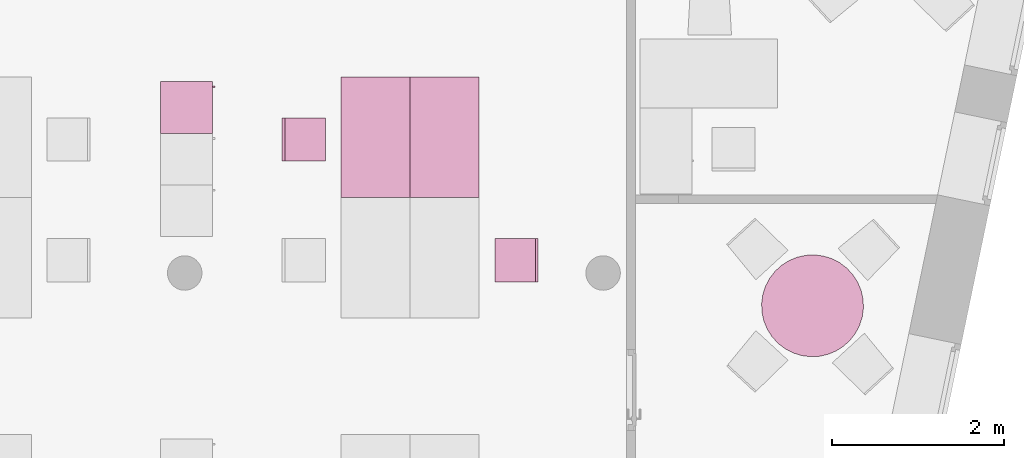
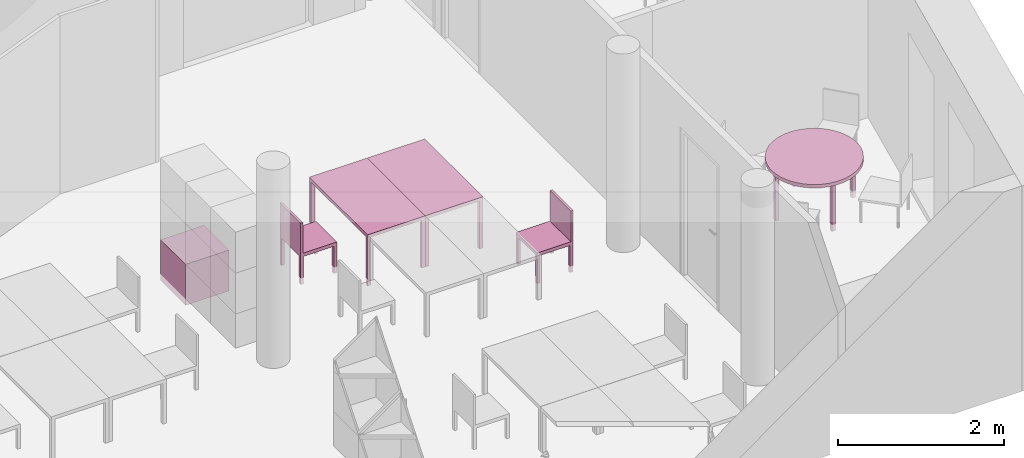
"""IFC4 building model written with IfcOpenShell, lengths in metres."""

import ifcopenshell
import ifcopenshell.guid

model = None  # the IFC model being written
_history = None  # IfcOwnerHistory: only IFC2X3 demands one
_inside = {}  # id of a spatial element -> (the spatial element, [elements in it])
_under = {}  # id of a project, library or spatial element -> (it, [spatial elements below it])
_declared = {}  # id of a project -> (the project, [libraries it declares])
_typed = {}  # id of a type object -> (the type object, [elements of that type])
_made_of = {}  # id of a material, layer set ... -> (it, [elements and type objects made of it])


def new_model(schema):
    """Start an empty IFC model of exactly this schema.

    Asked for "IFC4X3", IfcOpenShell would pick the latest addendum, in which some entities
    have other attributes; the version numbers below select the first issue.
    IFC2X3 requires an IfcOwnerHistory on every rooted entity: one is made here for all.
    """
    global model, _history
    if schema == "IFC4X3":
        model = ifcopenshell.file(schema_version=(4, 3, 0, 0))
    else:
        model = ifcopenshell.file(schema=schema)
    _inside.clear()
    _under.clear()
    _declared.clear()
    _typed.clear()
    _made_of.clear()
    _history = None
    if model.schema == "IFC2X3":
        org = make("IfcOrganization", Name="unknown")
        user = make(
            "IfcPersonAndOrganization",
            ThePerson=make("IfcPerson", FamilyName="unknown"),
            TheOrganization=org,
        )
        app = make(
            "IfcApplication",
            ApplicationDeveloper=org,
            Version="unknown",
            ApplicationFullName="unknown",
            ApplicationIdentifier="unknown",
        )
        _history = make(
            "IfcOwnerHistory",
            OwningUser=user,
            OwningApplication=app,
            ChangeAction="ADDED",
            CreationDate=0,
        )
    return model


def make(cls, **values):
    """One entity of the class cls with the attributes given. An attribute that is None is left unset."""
    return model.create_entity(
        cls, **{name: value for name, value in values.items() if value is not None}
    )


def entity(cls, *values):
    """Any entity or typed value of the class cls, its attributes in the order of the schema. None: left unset."""
    e = model.create_entity(cls)
    for i, value in enumerate(values):
        if value is not None:
            e[i] = value
    return e


def rooted(cls, **values):
    """An entity with a GlobalId (a new one), such as an element, a storey or a relation."""
    return make(cls, GlobalId=ifcopenshell.guid.new(), OwnerHistory=_history, **values)


def si_unit(unit_type, name, prefix=None):
    """IfcSIUnit, for example si_unit("LENGTHUNIT", "METRE", prefix="MILLI")."""
    return make("IfcSIUnit", UnitType=unit_type, Prefix=prefix, Name=name)


def converted_unit(unit_type, name, factor, base, dimensions=None, offset=None):
    """IfcConversionBasedUnit, such as the inch: factor (a typed value) times the base unit."""
    return make(
        "IfcConversionBasedUnit"
        if offset is None
        else "IfcConversionBasedUnitWithOffset",
        ConversionOffset=offset,
        Dimensions=None
        if dimensions is None
        else entity("IfcDimensionalExponents", *dimensions),
        UnitType=unit_type,
        Name=name,
        ConversionFactor=make(
            "IfcMeasureWithUnit", ValueComponent=factor, UnitComponent=base
        ),
    )


def derived_unit(unit_type, elements):
    """IfcDerivedUnit: a product of units, each with its exponent."""
    return make(
        "IfcDerivedUnit",
        Elements=[
            make("IfcDerivedUnitElement", Unit=unit, Exponent=power)
            for unit, power in elements
        ],
        UnitType=unit_type,
    )


def assignment(units):
    """IfcUnitAssignment: the units of a project."""
    return None if units is None else make("IfcUnitAssignment", Units=units)


def point(xyz):
    """IfcCartesianPoint."""
    return None if xyz is None else make("IfcCartesianPoint", Coordinates=xyz)


def direction(xyz):
    """IfcDirection."""
    return None if xyz is None else make("IfcDirection", DirectionRatios=xyz)


def frame(location, z_axis=None, x_axis=None):
    """IfcAxis2Placement3D, a coordinate frame: its origin and axes. An axis left out is left unset."""
    return make(
        "IfcAxis2Placement3D",
        Location=point(location),
        Axis=direction(z_axis),
        RefDirection=direction(x_axis),
    )


def origin():
    """The frame at (0, 0, 0) with its axes left unset."""
    return frame((0.0, 0.0, 0.0))


def place(relative_to, where):
    """IfcLocalPlacement: puts the frame where relative to a parent placement (None: the world)."""
    return make(
        "IfcLocalPlacement", PlacementRelTo=relative_to, RelativePlacement=where
    )


def context(
    kind, dimensions, precision=None, world=None, true_north=None, identifier=None
):
    """IfcGeometricRepresentationContext, for example the 3D "Model" context."""
    return make(
        "IfcGeometricRepresentationContext",
        ContextIdentifier=identifier,
        ContextType=kind,
        CoordinateSpaceDimension=dimensions,
        Precision=precision,
        WorldCoordinateSystem=world,
        TrueNorth=true_north,
    )


def subcontext(parent, identifier, kind, view, scale=None):
    """IfcGeometricRepresentationSubContext, for example "Body" below "Model"."""
    return make(
        "IfcGeometricRepresentationSubContext",
        ContextIdentifier=identifier,
        ContextType=kind,
        ParentContext=parent,
        TargetScale=scale,
        TargetView=view,
    )


def project(units=None, contexts=None):
    """IfcProject with its units and contexts."""
    return rooted(
        "IfcProject",
        Name="project",
        RepresentationContexts=contexts,
        UnitsInContext=assignment(units),
    )


def spatial(cls, under=None, at=None, **own):
    """A site, building, storey or space (cls), placed at a placement, below another one or the project."""
    s = rooted(cls, ObjectPlacement=at, **own)
    if under is not None:
        _under.setdefault(under.id(), (under, []))[1].append(s)
    return s


def faces_of(points, faces, orient=None, outer=None):
    """IfcFace entities. A face is a list of loops; a loop is a list of indices into points, from 0.

    orient and outer hold one flag for each loop. By default every Orientation is true, the
    first loop of a face is its IfcFaceOuterBound and the others are IfcFaceBound.
    """
    made = []
    for i, loops in enumerate(faces):
        bounds = []
        for j, loop in enumerate(loops):
            is_outer = j == 0 if outer is None else outer[i][j]
            bounds.append(
                make(
                    "IfcFaceOuterBound" if is_outer else "IfcFaceBound",
                    Bound=make("IfcPolyLoop", Polygon=[points[k] for k in loop]),
                    Orientation=True if orient is None else orient[i][j],
                )
            )
        made.append(make("IfcFace", Bounds=bounds))
    return made


def faceted_brep(points, faces, orient=None, outer=None, voids=None):
    """IfcFacetedBrep: a solid bounded by flat faces; with voids (closed shells), ...WithVoids."""
    shared = [point(p) for p in points]
    hull = make("IfcClosedShell", CfsFaces=faces_of(shared, faces, orient, outer))
    if voids is None:
        return make("IfcFacetedBrep", Outer=hull)
    return make(
        "IfcFacetedBrepWithVoids",
        Outer=hull,
        Voids=[
            make(cls, CfsFaces=faces_of(shared, fs, o, b)) for cls, fs, o, b in voids
        ],
    )


def shape(context_of_items, identifier, shape_type, items):
    """IfcShapeRepresentation: the items that make up one representation, for example the "Body"."""
    return make(
        "IfcShapeRepresentation",
        ContextOfItems=context_of_items,
        RepresentationIdentifier=identifier,
        RepresentationType=shape_type,
        Items=items,
    )


def made_of(thing, what):
    """Note that an element or type object is made of a material, layer set ...; save() writes the relation."""
    if what is not None:
        _made_of.setdefault(what.id(), (what, []))[1].append(thing)
    return thing


def element(
    cls,
    number,
    at=None,
    inside=None,
    cuts=None,
    type_object=None,
    material=None,
    context=None,
    identifier="Body",
    shape_type=None,
    held_by="IfcProductDefinitionShape",
    body=None,
    shapes=None,
    **own,
):
    """One element of the class cls, such as IfcWall. Its Tag is "e" and its number.

    at: its placement. inside: the storey or other place that contains it. cuts: it is an
    opening in that element (IfcRelVoidsElement). A single representation is given by context,
    identifier, shape_type and body (its items); several are given by shapes. held_by: the class
    of the entity that holds the representations. save() writes the other relations.
    """
    e = rooted(cls, Tag="e%d" % number, ObjectPlacement=at, **own)
    if body is not None:
        shapes = [shape(context, identifier, shape_type, body)]
    if shapes is not None:
        e.Representation = make(held_by, Representations=shapes)
    if inside is not None:
        _inside.setdefault(inside.id(), (inside, []))[1].append(e)
    if cuts is not None:
        rooted(
            "IfcRelVoidsElement", RelatingBuildingElement=cuts, RelatedOpeningElement=e
        )
    if type_object is not None:
        _typed.setdefault(type_object.id(), (type_object, []))[1].append(e)
    return made_of(e, material)


def aggregate(whole, parts):
    """IfcRelAggregates: a whole, such as a stair, and the parts it consists of."""
    return rooted("IfcRelAggregates", RelatingObject=whole, RelatedObjects=parts)


def save(model, path):
    """Write the relations noted so far, then the file.

    IfcRelAggregates (storeys below a building ...), IfcRelContainedInSpatialStructure (elements
    in a storey), IfcRelDefinesByType, IfcRelAssociatesMaterial and IfcRelDeclares: one each for
    every whole, place, type object, material and project.
    """
    for whole, parts in _under.values():
        aggregate(whole, parts)
    for where, things in _inside.values():
        rooted(
            "IfcRelContainedInSpatialStructure",
            RelatedElements=things,
            RelatingStructure=where,
        )
    for kind, things in _typed.values():
        rooted("IfcRelDefinesByType", RelatedObjects=things, RelatingType=kind)
    for what, things in _made_of.values():
        rooted("IfcRelAssociatesMaterial", RelatedObjects=things, RelatingMaterial=what)
    for by, libraries in _declared.values():
        rooted("IfcRelDeclares", RelatingContext=by, RelatedDefinitions=libraries)
    model.write(path)


model = new_model("IFC4")

# Units and contexts
model_context = context("Model", 3, precision=1e-05, world=origin())
body_context = subcontext(model_context, "Body", "Model", "MODEL_VIEW")
ifc_project = project(units=[si_unit("LENGTHUNIT", "METRE"), si_unit("AREAUNIT", "SQUARE_METRE"), si_unit("VOLUMEUNIT", "CUBIC_METRE"), si_unit("MASSUNIT", "GRAM", prefix="KILO"), converted_unit("PLANEANGLEUNIT", "DEGREE", entity("IfcPlaneAngleMeasure", 0.0174532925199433), si_unit("PLANEANGLEUNIT", "RADIAN"), dimensions=[0, 0, 0, 0, 0, 0, 0]), derived_unit("THERMALTRANSMITTANCEUNIT", [(si_unit("POWERUNIT", "WATT"), 1), (si_unit("THERMODYNAMICTEMPERATUREUNIT", "KELVIN"), -1), (si_unit("LENGTHUNIT", "METRE"), -2)]), derived_unit("VOLUMETRICFLOWRATEUNIT", [(si_unit("LENGTHUNIT", "METRE"), 3), (converted_unit("TIMEUNIT", "hour", entity("IfcTimeMeasure", 3600.0), si_unit("TIMEUNIT", "SECOND"), dimensions=[0, 0, 1, 0, 0, 0, 0]), -1), (si_unit("LENGTHUNIT", "METRE"), -1)])], contexts=[model_context])

# Building, storeys
building_placement = place(None, origin())
building = spatial("IfcBuilding", under=ifc_project, at=building_placement, Name="HABITATGE PLURIFAMILIAR", CompositionType="ELEMENT")
storey_1_placement = place(building_placement, frame((0.0, 0.0, 12.27)))
storey_1 = spatial("IfcBuildingStorey", under=building, at=storey_1_placement, Name="PLANTA TERCERA", CompositionType="ELEMENT", Elevation=12.27)
storey_2_placement = place(storey_1_placement, frame((0.0, 0.0, 9.26)))
storey_2 = spatial("IfcBuildingStorey", under=storey_1, at=storey_2_placement, Name="NOU", CompositionType="PARTIAL")

# Furniture
furniture_1_placement = place(storey_2_placement, frame((422.83097440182, 16.8283954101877, -9.3599999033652)))
element("IfcFurniture", 1, at=furniture_1_placement, inside=storey_2, Name="Taula D120_P3", context=body_context, shape_type="Brep", body=[
    faceted_brep([(0.566234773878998, 0.0, 0.7), (0.669181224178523, 0.00472505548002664, 0.7), (0.769743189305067, 0.0272547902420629, 0.7), (0.864865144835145, 0.066904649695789, 0.7), (0.95165685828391, 0.122469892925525, 0.7), (1.02748120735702, 0.192262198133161, 0.7), (1.09003430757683, 0.274160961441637, 0.7), (1.13741551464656, 0.365677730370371, 0.7), (1.16818517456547, 0.46403181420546, 0.7), (1.18140836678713, 0.566234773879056, 0.7), (1.17668331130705, 0.669181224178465, 0.7), (1.15415357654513, 0.769743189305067, 0.7), (1.1145037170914, 0.864865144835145, 0.7), (1.05893847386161, 0.95165685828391, 0.7), (0.98914616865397, 1.02748120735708, 0.7), (0.907247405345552, 1.09003430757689, 0.7), (0.815730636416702, 1.13741551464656, 0.7), (0.717376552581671, 1.16818517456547, 0.7), (0.615173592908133, 1.18140836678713, 0.7), (0.512227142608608, 1.1766833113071, 0.7), (0.411665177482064, 1.15415357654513, 0.7), (0.316543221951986, 1.1145037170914, 0.7), (0.229751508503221, 1.05893847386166, 0.7), (0.15392715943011, 0.989146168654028, 0.7), (0.0913740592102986, 0.907247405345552, 0.7), (0.0439928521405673, 0.81573063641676, 0.7), (0.0132231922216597, 0.717376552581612, 0.7), (0.0, 0.615173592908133, 0.7), (0.00472505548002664, 0.512227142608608, 0.7), (0.0272547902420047, 0.411665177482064, 0.7), (0.0669046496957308, 0.316543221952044, 0.7), (0.122469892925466, 0.229751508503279, 0.7), (0.192262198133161, 0.15392715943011, 0.7), (0.274160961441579, 0.0913740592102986, 0.7), (0.365677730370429, 0.0439928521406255, 0.7), (0.46403181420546, 0.0132231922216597, 0.7), (0.566234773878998, 0.0, 0.75), (0.46403181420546, 0.0132231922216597, 0.75), (0.365677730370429, 0.0439928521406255, 0.75), (0.274160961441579, 0.0913740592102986, 0.75), (0.192262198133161, 0.15392715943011, 0.75), (0.122469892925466, 0.229751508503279, 0.75), (0.0669046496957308, 0.316543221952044, 0.75), (0.0272547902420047, 0.411665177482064, 0.75), (0.00472505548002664, 0.512227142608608, 0.75), (0.0, 0.615173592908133, 0.75), (0.0132231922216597, 0.717376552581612, 0.75), (0.0439928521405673, 0.81573063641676, 0.75), (0.0913740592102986, 0.907247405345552, 0.75), (0.15392715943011, 0.989146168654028, 0.75), (0.229751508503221, 1.05893847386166, 0.75), (0.316543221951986, 1.1145037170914, 0.75), (0.411665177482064, 1.15415357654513, 0.75), (0.512227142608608, 1.1766833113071, 0.75), (0.615173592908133, 1.18140836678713, 0.75), (0.717376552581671, 1.16818517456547, 0.75), (0.815730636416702, 1.13741551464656, 0.75), (0.907247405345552, 1.09003430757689, 0.75), (0.98914616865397, 1.02748120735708, 0.75), (1.05893847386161, 0.95165685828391, 0.75), (1.1145037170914, 0.864865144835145, 0.75), (1.15415357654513, 0.769743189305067, 0.75), (1.17668331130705, 0.669181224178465, 0.75), (1.18140836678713, 0.566234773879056, 0.75), (1.16818517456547, 0.46403181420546, 0.75), (1.13741551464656, 0.365677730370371, 0.75), (1.09003430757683, 0.274160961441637, 0.75), (1.02748120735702, 0.192262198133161, 0.75), (0.95165685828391, 0.122469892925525, 0.75), (0.864865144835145, 0.066904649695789, 0.75), (0.769743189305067, 0.0272547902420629, 0.75), (0.669181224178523, 0.00472505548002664, 0.75)], [[[0, 1, 2, 3, 4, 5, 6, 7, 8, 9, 10, 11, 12, 13, 14, 15, 16, 17, 18, 19, 20, 21, 22, 23, 24, 25, 26, 27, 28, 29, 30, 31, 32, 33, 34, 35]], [[36, 37, 38, 39, 40, 41, 42, 43, 44, 45, 46, 47, 48, 49, 50, 51, 52, 53, 54, 55, 56, 57, 58, 59, 60, 61, 62, 63, 64, 65, 66, 67, 68, 69, 70, 71]], [[1, 0, 36, 71]], [[2, 1, 71, 70]], [[3, 2, 70, 69]], [[4, 3, 69, 68]], [[5, 4, 68, 67]], [[6, 5, 67, 66]], [[7, 6, 66, 65]], [[8, 7, 65, 64]], [[9, 8, 64, 63]], [[10, 9, 63, 62]], [[11, 10, 62, 61]], [[12, 11, 61, 60]], [[13, 12, 60, 59]], [[14, 13, 59, 58]], [[15, 14, 58, 57]], [[16, 15, 57, 56]], [[17, 16, 56, 55]], [[18, 17, 55, 54]], [[19, 18, 54, 53]], [[20, 19, 53, 52]], [[21, 20, 52, 51]], [[22, 21, 51, 50]], [[23, 22, 50, 49]], [[24, 23, 49, 48]], [[25, 24, 48, 47]], [[26, 25, 47, 46]], [[27, 26, 46, 45]], [[28, 27, 45, 44]], [[29, 28, 44, 43]], [[30, 29, 43, 42]], [[31, 30, 42, 41]], [[32, 31, 41, 40]], [[33, 32, 40, 39]], [[34, 33, 39, 38]], [[35, 34, 38, 37]], [[0, 35, 37, 36]]], orient=[[False], [False], [False], [False], [False], [False], [False], [False], [False], [False], [False], [False], [False], [False], [False], [False], [False], [False], [False], [False], [False], [False], [False], [False], [False], [False], [False], [False], [False], [False], [False], [False], [False], [False], [False], [False], [False], [False]]),
    faceted_brep([(1.13402659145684, 0.582336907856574, 0.0), (1.08406943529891, 0.584406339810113, 0.0), (1.08200000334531, 0.534449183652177, 0.0), (1.13195715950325, 0.532379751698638, 0.0), (1.08406943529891, 0.584406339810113, 0.7), (1.13402659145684, 0.582336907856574, 0.7), (1.13195715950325, 0.532379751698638, 0.7), (1.08200000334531, 0.534449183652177, 0.7)], [[[0, 1, 2, 3]], [[4, 5, 6, 7]], [[1, 0, 5, 4]], [[2, 1, 4, 7]], [[3, 2, 7, 6]], [[0, 3, 6, 5]]], orient=[[False], [False], [False], [False], [False], [False]]),
    faceted_brep([(0.638184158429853, 1.13286481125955, 0.0), (0.588227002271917, 1.13493424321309, 0.0), (0.586157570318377, 1.08497708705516, 0.0), (0.636114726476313, 1.08290765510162, 0.0), (0.588227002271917, 1.13493424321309, 0.7), (0.638184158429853, 1.13286481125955, 0.7), (0.636114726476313, 1.08290765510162, 0.7), (0.586157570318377, 1.08497708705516, 0.7)], [[[0, 1, 2, 3]], [[4, 5, 6, 7]], [[1, 0, 5, 4]], [[2, 1, 4, 7]], [[3, 2, 7, 6]], [[0, 3, 6, 5]]], orient=[[False], [False], [False], [False], [False], [False]]),
    faceted_brep([(0.574688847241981, 0.0976411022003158, 0.0), (0.524731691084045, 0.0997105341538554, 0.0), (0.522662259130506, 0.0497533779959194, 0.0), (0.572619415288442, 0.0476839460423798, 0.0), (0.524731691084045, 0.0997105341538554, 0.7), (0.574688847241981, 0.0976411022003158, 0.7), (0.572619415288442, 0.0476839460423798, 0.7), (0.522662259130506, 0.0497533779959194, 0.7)], [[[0, 1, 2, 3]], [[4, 5, 6, 7]], [[1, 0, 5, 4]], [[2, 1, 4, 7]], [[3, 2, 7, 6]], [[0, 3, 6, 5]]], orient=[[False], [False], [False], [False], [False], [False]]),
    faceted_brep([(0.098150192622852, 0.625247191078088, 0.0), (0.0481930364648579, 0.627316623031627, 0.0), (0.0461236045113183, 0.577359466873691, 0.0), (0.0960807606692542, 0.575290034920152, 0.0), (0.0481930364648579, 0.627316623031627, 0.7), (0.098150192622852, 0.625247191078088, 0.7), (0.0960807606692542, 0.575290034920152, 0.7), (0.0461236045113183, 0.577359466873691, 0.7)], [[[0, 1, 2, 3]], [[4, 5, 6, 7]], [[1, 0, 5, 4]], [[2, 1, 4, 7]], [[3, 2, 7, 6]], [[0, 3, 6, 5]]], orient=[[False], [False], [False], [False], [False], [False]]),
])
furniture_2_placement = place(storey_2_placement, frame((418.75287675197, 18.6780503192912, -9.3599999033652)))
element("IfcFurniture", 2, at=furniture_2_placement, inside=storey_2, Name="Taula 140X80_P3", context=body_context, shape_type="Brep", body=[
    faceted_brep([(0.05, 0.0437500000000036, 0.0), (0.0, 0.04375, 0.0), (0.0, 0.0, 0.0), (0.05, 0.0, 0.0), (0.0, 0.04375, 0.7), (0.05, 0.0437500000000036, 0.7), (0.05, 0.0, 0.7), (0.0, 0.0, 0.7)], [[[0, 1, 2, 3]], [[4, 5, 6, 7]], [[1, 0, 5, 4]], [[2, 1, 4, 7]], [[3, 2, 7, 6]], [[0, 3, 6, 5]]], orient=[[False], [False], [False], [False], [False], [False]]),
    faceted_brep([(0.800069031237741, 0.0437500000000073, 0.0), (0.750069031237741, 0.0437500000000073, 0.0), (0.750069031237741, 0.0, 0.0), (0.800069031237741, 0.0, 0.0), (0.750069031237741, 0.0437500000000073, 0.7), (0.800069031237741, 0.0437500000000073, 0.7), (0.800069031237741, 0.0, 0.7), (0.750069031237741, 0.0, 0.7)], [[[0, 1, 2, 3]], [[4, 5, 6, 7]], [[1, 0, 5, 4]], [[2, 1, 4, 7]], [[3, 2, 7, 6]], [[0, 3, 6, 5]]], orient=[[False], [False], [False], [False], [False], [False]]),
    faceted_brep([(0.800069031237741, 1.39732768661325, 0.7), (0.0, 1.39732768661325, 0.7), (0.0, 0.0, 0.7), (0.800069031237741, 0.0, 0.7), (0.0, 1.39732768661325, 0.75), (0.800069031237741, 1.39732768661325, 0.75), (0.800069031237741, 0.0, 0.75), (0.0, 0.0, 0.75)], [[[0, 1, 2, 3]], [[4, 5, 6, 7]], [[1, 0, 5, 4]], [[2, 1, 4, 7]], [[3, 2, 7, 6]], [[0, 3, 6, 5]]], orient=[[False], [False], [False], [False], [False], [False]]),
    faceted_brep([(0.05, 1.39732768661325, 0.0), (0.0, 1.39732768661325, 0.0), (0.0, 1.35357768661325, 0.0), (0.05, 1.35357768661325, 0.0), (0.0, 1.39732768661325, 0.7), (0.05, 1.39732768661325, 0.7), (0.05, 1.35357768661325, 0.7), (0.0, 1.35357768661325, 0.7)], [[[0, 1, 2, 3]], [[4, 5, 6, 7]], [[1, 0, 5, 4]], [[2, 1, 4, 7]], [[3, 2, 7, 6]], [[0, 3, 6, 5]]], orient=[[False], [False], [False], [False], [False], [False]]),
    faceted_brep([(0.800069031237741, 1.39732768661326, 0.0), (0.750069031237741, 1.39732768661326, 0.0), (0.750069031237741, 1.35357768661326, 0.0), (0.800069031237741, 1.35357768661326, 0.0), (0.750069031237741, 1.39732768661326, 0.7), (0.800069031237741, 1.39732768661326, 0.7), (0.800069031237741, 1.35357768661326, 0.7), (0.750069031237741, 1.35357768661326, 0.7)], [[[0, 1, 2, 3]], [[4, 5, 6, 7]], [[1, 0, 5, 4]], [[2, 1, 4, 7]], [[3, 2, 7, 6]], [[0, 3, 6, 5]]], orient=[[False], [False], [False], [False], [False], [False]]),
])
furniture_3_placement = place(storey_2_placement, frame((417.952807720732, 18.6780503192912, -9.3599999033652)))
element("IfcFurniture", 3, at=furniture_3_placement, inside=storey_2, Name="Taula 140X80_P3", context=body_context, shape_type="Brep", body=[
    faceted_brep([(0.750069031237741, 0.04375, 0.0), (0.750069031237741, 0.0, 0.0), (0.800069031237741, 0.0, 0.0), (0.800069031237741, 0.04375, 0.0), (0.800069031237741, 0.04375, 0.7), (0.800069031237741, 0.0, 0.7), (0.750069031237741, 0.0, 0.7), (0.750069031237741, 0.04375, 0.7)], [[[0, 1, 2, 3]], [[4, 5, 6, 7]], [[3, 4, 7, 0]], [[2, 5, 4, 3]], [[1, 6, 5, 2]], [[0, 7, 6, 1]]], orient=[[False], [False], [False], [False], [False], [False]]),
    faceted_brep([(0.0, 0.0437500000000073, 0.0), (0.0, 0.0, 0.0), (0.05, 0.0, 0.0), (0.05, 0.0437500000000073, 0.0), (0.05, 0.0437500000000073, 0.7), (0.05, 0.0, 0.7), (0.0, 0.0, 0.7), (0.0, 0.0437500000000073, 0.7)], [[[0, 1, 2, 3]], [[4, 5, 6, 7]], [[3, 4, 7, 0]], [[2, 5, 4, 3]], [[1, 6, 5, 2]], [[0, 7, 6, 1]]], orient=[[False], [False], [False], [False], [False], [False]]),
    faceted_brep([(0.0, 1.39732768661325, 0.7), (0.0, 0.0, 0.7), (0.800069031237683, 0.0, 0.7), (0.800069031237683, 1.39732768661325, 0.7), (0.800069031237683, 1.39732768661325, 0.75), (0.800069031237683, 0.0, 0.75), (0.0, 0.0, 0.75), (0.0, 1.39732768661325, 0.75)], [[[0, 1, 2, 3]], [[4, 5, 6, 7]], [[3, 4, 7, 0]], [[2, 5, 4, 3]], [[1, 6, 5, 2]], [[0, 7, 6, 1]]], orient=[[False], [False], [False], [False], [False], [False]]),
    faceted_brep([(0.750069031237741, 1.39732768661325, 0.0), (0.750069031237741, 1.35357768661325, 0.0), (0.800069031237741, 1.35357768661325, 0.0), (0.800069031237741, 1.39732768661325, 0.0), (0.800069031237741, 1.39732768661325, 0.7), (0.800069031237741, 1.35357768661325, 0.7), (0.750069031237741, 1.35357768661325, 0.7), (0.750069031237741, 1.39732768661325, 0.7)], [[[0, 1, 2, 3]], [[4, 5, 6, 7]], [[3, 4, 7, 0]], [[2, 5, 4, 3]], [[1, 6, 5, 2]], [[0, 7, 6, 1]]], orient=[[False], [False], [False], [False], [False], [False]]),
    faceted_brep([(0.0, 1.39732768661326, 0.0), (0.0, 1.35357768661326, 0.0), (0.05, 1.35357768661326, 0.0), (0.05, 1.39732768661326, 0.0), (0.05, 1.39732768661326, 0.7), (0.05, 1.35357768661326, 0.7), (0.0, 1.35357768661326, 0.7), (0.0, 1.39732768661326, 0.7)], [[[0, 1, 2, 3]], [[4, 5, 6, 7]], [[3, 4, 7, 0]], [[2, 5, 4, 3]], [[1, 6, 5, 2]], [[0, 7, 6, 1]]], orient=[[False], [False], [False], [False], [False], [False]]),
])
furniture_4_placement = place(storey_2_placement, frame((415.856984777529, 19.4211705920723, -9.3599999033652)))
element("IfcFurniture", 4, at=furniture_4_placement, inside=storey_2, Name="Armai 60x60x60_P3", context=body_context, shape_type="Brep", body=[
    faceted_brep([(0.6, 0.600000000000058, 0.02), (0.6, 0.600000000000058, 0.0), (0.6, 0.0, 0.0), (0.6, 0.0, 0.02), (0.0, 0.0, 0.0), (0.0, 0.0, 0.02), (0.0, 0.600000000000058, 0.0), (0.0, 0.600000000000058, 0.02)], [[[0, 1, 2, 3]], [[3, 2, 4, 5]], [[5, 4, 6, 7]], [[7, 6, 1, 0]], [[0, 3, 5, 7]], [[1, 6, 4, 2]]], orient=[[False], [False], [False], [False], [False], [False]]),
    faceted_brep([(0.0, 0.02, 0.58), (0.0200000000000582, 0.02, 0.58), (0.0200000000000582, 0.02, 0.02), (0.0, 0.02, 0.02), (0.0200000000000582, 0.58, 0.02), (0.0, 0.58, 0.02), (0.0200000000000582, 0.58, 0.58), (0.0, 0.58, 0.58)], [[[0, 1, 2, 3]], [[3, 2, 4, 5]], [[5, 4, 6, 7]], [[7, 6, 1, 0]], [[0, 3, 5, 7]], [[1, 6, 4, 2]]], orient=[[False], [False], [False], [False], [False], [False]]),
    faceted_brep([(0.6, 0.58, 0.58), (0.6, 0.6, 0.58), (0.6, 0.6, 0.02), (0.6, 0.58, 0.02), (0.0, 0.6, 0.02), (0.0, 0.58, 0.02), (0.0, 0.6, 0.58), (0.0, 0.58, 0.58)], [[[0, 1, 2, 3]], [[3, 2, 4, 5]], [[5, 4, 6, 7]], [[7, 6, 1, 0]], [[0, 3, 5, 7]], [[1, 6, 4, 2]]], orient=[[False], [False], [False], [False], [False], [False]]),
    faceted_brep([(0.58, 0.600000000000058, 0.58), (0.6, 0.600000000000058, 0.58), (0.6, 0.600000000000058, 0.02), (0.58, 0.600000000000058, 0.02), (0.6, 0.580000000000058, 0.02), (0.58, 0.580000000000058, 0.02), (0.6, 0.580000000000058, 0.58), (0.58, 0.580000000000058, 0.58)], [[[0, 1, 2, 3]], [[3, 2, 4, 5]], [[5, 4, 6, 7]], [[7, 6, 1, 0]], [[0, 3, 5, 7]], [[1, 6, 4, 2]]], orient=[[False], [False], [False], [False], [False], [False]]),
    faceted_brep([(0.6, 0.0, 0.58), (0.6, 0.0200000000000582, 0.58), (0.6, 0.0200000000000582, 0.02), (0.6, 0.0, 0.02), (0.0, 0.0200000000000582, 0.02), (0.0, 0.0, 0.02), (0.0, 0.0200000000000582, 0.58), (0.0, 0.0, 0.58)], [[[0, 1, 2, 3]], [[3, 2, 4, 5]], [[5, 4, 6, 7]], [[7, 6, 1, 0]], [[0, 3, 5, 7]], [[1, 6, 4, 2]]], orient=[[False], [False], [False], [False], [False], [False]]),
    faceted_brep([(0.600000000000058, 0.6, 0.6), (0.600000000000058, 0.6, 0.58), (0.600000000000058, 0.0, 0.58), (0.600000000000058, 0.0, 0.6), (0.0, 0.0, 0.58), (0.0, 0.0, 0.6), (0.0, 0.6, 0.58), (0.0, 0.6, 0.6)], [[[0, 1, 2, 3]], [[3, 2, 4, 5]], [[5, 4, 6, 7]], [[7, 6, 1, 0]], [[0, 3, 5, 7]], [[1, 6, 4, 2]]], orient=[[False], [False], [False], [False], [False], [False]]),
    faceted_brep([(0.580000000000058, 0.02, 0.58), (0.600000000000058, 0.02, 0.58), (0.600000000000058, 0.02, 0.02), (0.580000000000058, 0.02, 0.02), (0.600000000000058, 0.580000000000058, 0.02), (0.580000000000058, 0.580000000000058, 0.02), (0.600000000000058, 0.580000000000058, 0.58), (0.580000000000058, 0.580000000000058, 0.58)], [[[0, 1, 2, 3]], [[3, 2, 4, 5]], [[5, 4, 6, 7]], [[7, 6, 1, 0]], [[0, 3, 5, 7]], [[1, 6, 4, 2]]], orient=[[False], [False], [False], [False], [False], [False]]),
    faceted_brep([(0.600000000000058, 0.53, 0.358064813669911), (0.630000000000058, 0.53, 0.358064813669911), (0.630000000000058, 0.53, 0.258064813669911), (0.600000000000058, 0.53, 0.258064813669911), (0.630000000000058, 0.55, 0.258064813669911), (0.600000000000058, 0.55, 0.258064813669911), (0.630000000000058, 0.55, 0.358064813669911), (0.600000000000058, 0.55, 0.358064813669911)], [[[0, 1, 2, 3]], [[3, 2, 4, 5]], [[5, 4, 6, 7]], [[7, 6, 1, 0]], [[0, 3, 5, 7]], [[1, 6, 4, 2]]], orient=[[False], [False], [False], [False], [False], [False]]),
])
furniture_5_placement = place(storey_2_placement, frame((419.737087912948, 17.6980313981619, -9.35590342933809)))
element("IfcFurniture", 5, at=furniture_5_placement, inside=storey_2, Name="Cadira d'Oficina_P3", context=body_context, shape_type="Brep", body=[
    faceted_brep([(0.0, 0.5, 0.4), (0.0, 0.0, 0.4), (0.5, 0.0, 0.4), (0.5, 0.5, 0.4), (0.5, 0.5, 0.45), (0.5, 0.0, 0.45), (0.0, 0.0, 0.45), (0.0, 0.5, 0.45)], [[[0, 1, 2, 3]], [[4, 5, 6, 7]], [[3, 4, 7, 0]], [[2, 5, 4, 3]], [[1, 6, 5, 2]], [[0, 7, 6, 1]]], orient=[[False], [False], [False], [False], [False], [False]]),
    faceted_brep([(0.46, 0.0, 0.0), (0.5, 0.0, 0.0), (0.5, 0.04, 0.0), (0.46, 0.04, 0.0), (0.46, 0.04, 0.4), (0.5, 0.04, 0.4), (0.5, 0.0, 0.4), (0.46, 0.0, 0.4)], [[[0, 1, 2, 3]], [[4, 5, 6, 7]], [[3, 4, 7, 0]], [[2, 5, 4, 3]], [[1, 6, 5, 2]], [[0, 7, 6, 1]]], orient=[[False], [False], [False], [False], [False], [False]]),
    faceted_brep([(0.0, 0.0, 0.0), (0.04, 0.0, 0.0), (0.04, 0.04, 0.0), (0.0, 0.04, 0.0), (0.0, 0.04, 0.4), (0.04, 0.04, 0.4), (0.04, 0.0, 0.4), (0.0, 0.0, 0.4)], [[[0, 1, 2, 3]], [[4, 5, 6, 7]], [[3, 4, 7, 0]], [[2, 5, 4, 3]], [[1, 6, 5, 2]], [[0, 7, 6, 1]]], orient=[[False], [False], [False], [False], [False], [False]]),
    faceted_brep([(0.46, 0.46, 0.0), (0.5, 0.46, 0.0), (0.5, 0.5, 0.0), (0.46, 0.5, 0.0), (0.46, 0.5, 0.4), (0.5, 0.5, 0.4), (0.5, 0.46, 0.4), (0.46, 0.46, 0.4)], [[[0, 1, 2, 3]], [[4, 5, 6, 7]], [[3, 4, 7, 0]], [[2, 5, 4, 3]], [[1, 6, 5, 2]], [[0, 7, 6, 1]]], orient=[[False], [False], [False], [False], [False], [False]]),
    faceted_brep([(0.0, 0.46, 0.0), (0.04, 0.46, 0.0), (0.04, 0.5, 0.0), (0.0, 0.5, 0.0), (0.0, 0.5, 0.4), (0.04, 0.5, 0.4), (0.04, 0.46, 0.4), (0.0, 0.46, 0.4)], [[[0, 1, 2, 3]], [[4, 5, 6, 7]], [[3, 4, 7, 0]], [[2, 5, 4, 3]], [[1, 6, 5, 2]], [[0, 7, 6, 1]]], orient=[[False], [False], [False], [False], [False], [False]]),
    faceted_brep([(0.47, 0.0, 0.45), (0.5, 0.0, 0.45), (0.5, 0.5, 0.45), (0.47, 0.5, 0.45), (0.47, 0.5, 0.9), (0.5, 0.5, 0.9), (0.5, 0.0, 0.9), (0.47, 0.0, 0.9)], [[[0, 1, 2, 3]], [[4, 5, 6, 7]], [[3, 4, 7, 0]], [[2, 5, 4, 3]], [[1, 6, 5, 2]], [[0, 7, 6, 1]]], orient=[[False], [False], [False], [False], [False], [False]]),
])
furniture_6_placement = place(storey_2_placement, frame((417.268665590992, 19.0992104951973, -9.3546338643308)))
element("IfcFurniture", 6, at=furniture_6_placement, inside=storey_2, Name="Cadira d'Oficina_P3", context=body_context, shape_type="Brep", body=[
    faceted_brep([(0.500000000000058, 0.5, 0.4), (0.0, 0.5, 0.4), (0.0, 0.0, 0.4), (0.500000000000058, 0.0, 0.4), (0.0, 0.5, 0.45), (0.500000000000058, 0.5, 0.45), (0.500000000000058, 0.0, 0.45), (0.0, 0.0, 0.45)], [[[0, 1, 2, 3]], [[4, 5, 6, 7]], [[1, 0, 5, 4]], [[2, 1, 4, 7]], [[3, 2, 7, 6]], [[0, 3, 6, 5]]], orient=[[False], [False], [False], [False], [False], [False]]),
    faceted_brep([(0.0400000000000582, 0.0, 0.0), (0.0400000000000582, 0.04, 0.0), (0.0, 0.04, 0.0), (0.0, 0.0, 0.0), (0.0400000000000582, 0.04, 0.4), (0.0400000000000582, 0.0, 0.4), (0.0, 0.0, 0.4), (0.0, 0.04, 0.4)], [[[0, 1, 2, 3]], [[4, 5, 6, 7]], [[1, 0, 5, 4]], [[2, 1, 4, 7]], [[3, 2, 7, 6]], [[0, 3, 6, 5]]], orient=[[False], [False], [False], [False], [False], [False]]),
    faceted_brep([(0.500000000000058, 0.0, 0.0), (0.500000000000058, 0.04, 0.0), (0.460000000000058, 0.04, 0.0), (0.460000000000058, 0.0, 0.0), (0.500000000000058, 0.04, 0.4), (0.500000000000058, 0.0, 0.4), (0.460000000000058, 0.0, 0.4), (0.460000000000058, 0.04, 0.4)], [[[0, 1, 2, 3]], [[4, 5, 6, 7]], [[1, 0, 5, 4]], [[2, 1, 4, 7]], [[3, 2, 7, 6]], [[0, 3, 6, 5]]], orient=[[False], [False], [False], [False], [False], [False]]),
    faceted_brep([(0.04, 0.46, 0.0), (0.04, 0.5, 0.0), (0.0, 0.5, 0.0), (0.0, 0.46, 0.0), (0.04, 0.5, 0.4), (0.04, 0.46, 0.4), (0.0, 0.46, 0.4), (0.0, 0.5, 0.4)], [[[0, 1, 2, 3]], [[4, 5, 6, 7]], [[1, 0, 5, 4]], [[2, 1, 4, 7]], [[3, 2, 7, 6]], [[0, 3, 6, 5]]], orient=[[False], [False], [False], [False], [False], [False]]),
    faceted_brep([(0.500000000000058, 0.46, 0.0), (0.500000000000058, 0.5, 0.0), (0.460000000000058, 0.5, 0.0), (0.460000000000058, 0.46, 0.0), (0.500000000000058, 0.5, 0.4), (0.500000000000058, 0.46, 0.4), (0.460000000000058, 0.46, 0.4), (0.460000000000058, 0.5, 0.4)], [[[0, 1, 2, 3]], [[4, 5, 6, 7]], [[1, 0, 5, 4]], [[2, 1, 4, 7]], [[3, 2, 7, 6]], [[0, 3, 6, 5]]], orient=[[False], [False], [False], [False], [False], [False]]),
    faceted_brep([(0.0300000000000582, 0.0, 0.45), (0.03, 0.5, 0.45), (0.0, 0.5, 0.45), (0.0, 0.0, 0.45), (0.03, 0.5, 0.9), (0.0300000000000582, 0.0, 0.9), (0.0, 0.0, 0.9), (0.0, 0.5, 0.9)], [[[0, 1, 2, 3]], [[4, 5, 6, 7]], [[1, 0, 5, 4]], [[2, 1, 4, 7]], [[3, 2, 7, 6]], [[0, 3, 6, 5]]], orient=[[False], [False], [False], [False], [False], [False]]),
])

save(model, "model.ifc")
